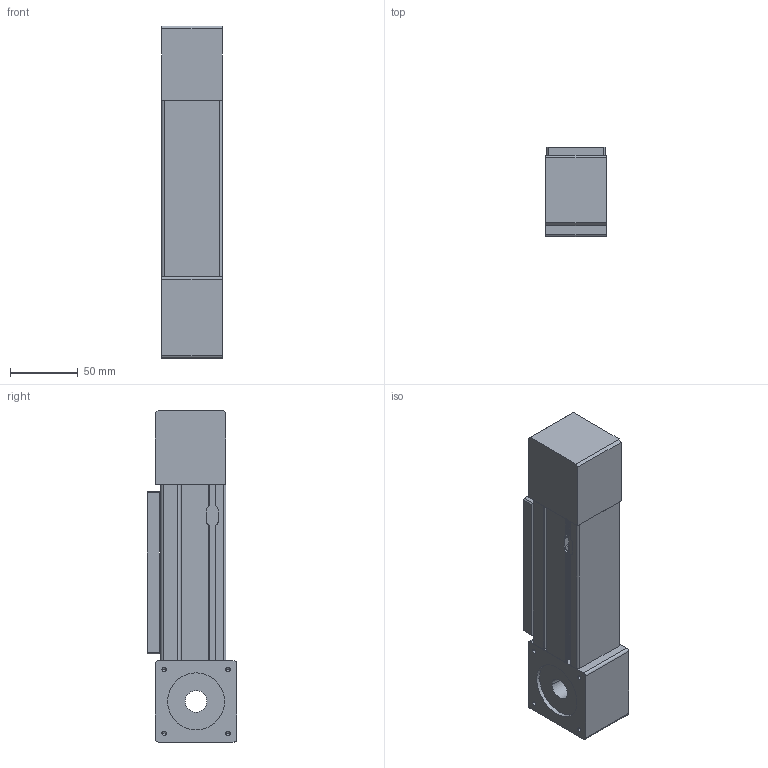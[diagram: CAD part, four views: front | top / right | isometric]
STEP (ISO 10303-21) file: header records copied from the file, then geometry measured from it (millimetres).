
FILE_DESCRIPTION (( 'STEP AP214' ), '1' );
FILE_NAME ('ML45-hpC.STEP', '2020-05-07T08:11:51', ( '' ), ( '' ), 'SwSTEP 2.0', 'SolidWorks 2019', '' );
FILE_SCHEMA (( 'AUTOMOTIVE_DESIGN' ));
Length unit declared in the file: millimetre
Products named in the file (5): TR45HP; ML45-hpC; CR45HP; PR45HP; TM45HPC
Assembly tree (4 placements, depth 2):
  ML45-hpC
    PR45HP
    TM45HPC
    TR45HP
    CR45HP
Bounding box: 45 x 66 x 245 mm (x, y, z)
Volume: 586918.9 mm3; surface area: 83890.2 mm2
Topology: 4 solids, 4 shells, 172 faces, 470 edges, 300 vertices
Faces by surface type: cylinder 86, plane 70, cone 16
Entity records: 6269 total; most frequent: CARTESIAN_POINT 1698, DIRECTION 928, ORIENTED_EDGE 908, EDGE_CURVE 454, AXIS2_PLACEMENT_3D 327, VERTEX_POINT 300, LINE 274, VECTOR 274
